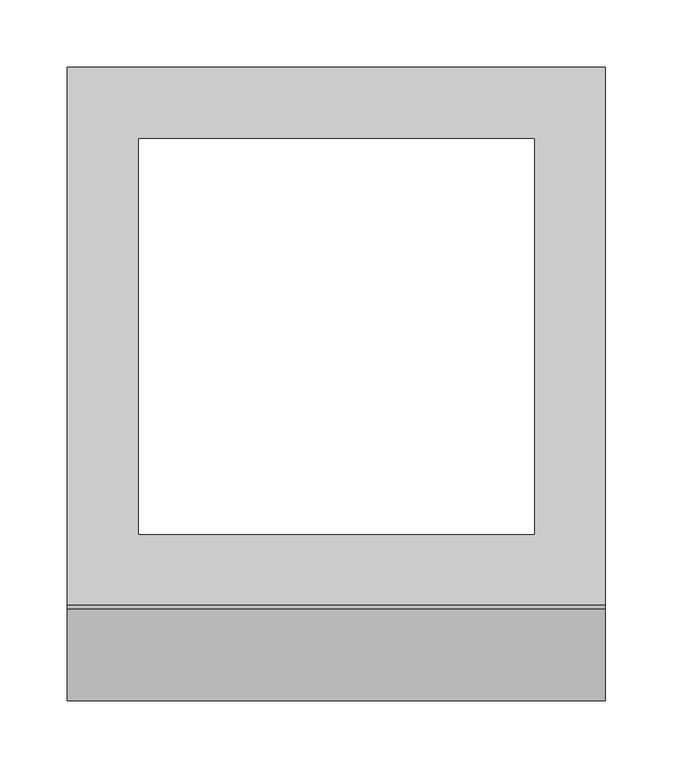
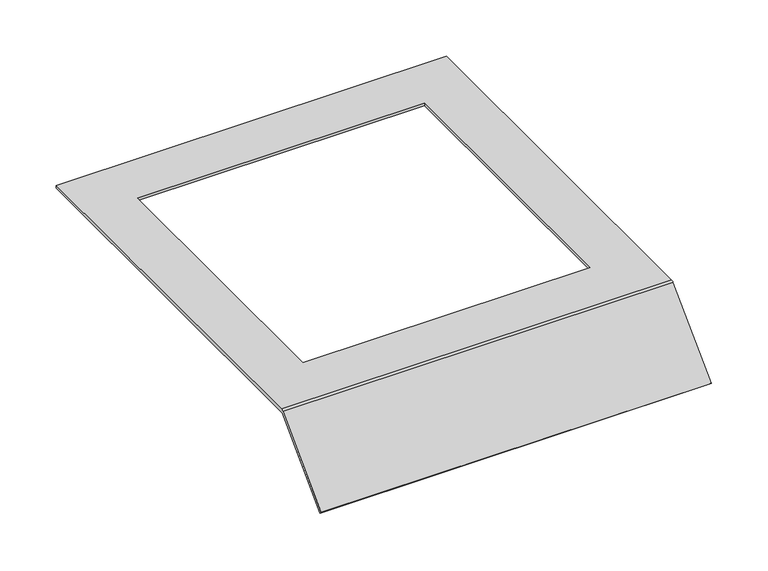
"""IFC4 building model written with IfcOpenShell, lengths in millimetres: proxy geometry, Electrical_Installation_Hager_Covers-With-Installation-Opening-Q08 : Electrical_Installation_Hager_Covers-With-Installation-Opening-Q08."""

from ifc_helpers import new_model, si_unit, frame, origin, place, context, project, spatial, polyline, circle_curve, source, transform, mapped, element, save
from ifc_brep_helpers import plane_surface, cylinder_surface, revolved_surface, advanced_brep


def electrical_fixtures_5756d35e(model_context):
    return source(origin(), model_context, "Body", "AdvancedBrep", [
        advanced_brep(
        [(0.0, 200.0, 40.5), (0.0, 200.0, 37.5), (0.0, -199.8229541, 37.5), (0.0, -200.8322972, 37.0819164), (0.0, -268.712807, -30.7985934), (0.0, -270.8341273, -28.6772731), (0.0, -202.8206472, 39.336207), (0.0, -200.0110025, 40.5), (400.0, 200.0, 40.5), (400.0, -200.0110025, 40.5), (400.0, -202.8206472, 39.336207), (400.0, -270.8341273, -28.6772731), (400.0, -268.712807, -30.7985934), (400.0, -200.8322972, 37.0819164), (400.0, -199.8229541, 37.5), (400.0, 200.0, 37.5), (347.0, 147.0, 37.5), (53.0, 147.0, 37.5), (53.0, -147.0, 37.5), (347.0, -147.0, 37.5), (53.0, 147.0, 40.5), (347.0, 147.0, 40.5), (347.0, -147.0, 40.5), (53.0, -147.0, 40.5)],
        [
            (0, 1),
            (1, 2),
            (2, 3, circle_curve(frame((0.0, -199.8229541, 36.0725733), z_axis=(1.0, 0.0, 0.0), x_axis=(0.0, 1.0, 0.0)), 1.4274267)),
            (3, 4),
            (4, 5),
            (5, 6),
            (6, 7, circle_curve(frame((0.0, -200.0110025, 36.5265623), z_axis=(-1.0, 0.0, 0.0), x_axis=(0.0, 1.0, 0.0)), 3.9734377)),
            (7, 0),
            (8, 9),
            (9, 10, circle_curve(frame((400.0, -200.0110025, 36.5265623), z_axis=(1.0, 0.0, 0.0), x_axis=(0.0, 1.0, 0.0)), 3.9734377)),
            (10, 11),
            (11, 12),
            (12, 13),
            (13, 14, circle_curve(frame((400.0, -199.8229541, 36.0725733), z_axis=(-1.0, 0.0, 0.0), x_axis=(0.0, 1.0, 0.0)), 1.4274267)),
            (14, 15),
            (15, 8),
            (0, 8),
            (15, 1),
            (14, 2),
            (16, 17),
            (17, 18),
            (18, 19),
            (19, 16),
            (13, 3),
            (12, 4),
            (11, 5),
            (10, 6),
            (9, 7),
            (20, 21),
            (21, 22),
            (22, 23),
            (23, 20),
            (16, 21),
            (20, 17),
            (23, 18),
            (22, 19),
        ],
        [
            plane_surface(frame((0.0, 0.3269864, 15.0), z_axis=(-1.0, 0.0, 0.0), x_axis=(0.0, 0.0, 1.0))),
            plane_surface(frame((400.0, 0.3269864, 15.0), z_axis=(1.0, 0.0, 0.0), x_axis=(0.0, 0.0, 1.0))),
            plane_surface(frame((0.0, 200.0, 40.5), z_axis=(0.0, 1.0, 0.0), x_axis=(1.0, 0.0, 0.0))),
            plane_surface(frame((0.0, 200.0, 37.5), z_axis=(0.0, 0.0, -1.0), x_axis=(1.0, 0.0, 0.0))),
            revolved_surface(polyline([(400.0, -198.3955274, 36.0725733), (0.0, -198.3955274, 36.0725733)]), (0.0, -199.8229541, 36.0725733), (1.0, 0.0, 0.0)),
            plane_surface(frame((0.0, -200.8322972, 37.0819164), z_axis=(0.0, 0.7071067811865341, -0.707106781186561), x_axis=(1.0, 0.0, 0.0))),
            plane_surface(frame((0.0, -268.712807, -30.7985934), z_axis=(0.0, -0.7071067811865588, -0.7071067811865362), x_axis=(1.0, 0.0, 0.0))),
            plane_surface(frame((0.0, -270.8341273, -28.6772731), z_axis=(0.0, -0.707106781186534, 0.7071067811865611), x_axis=(1.0, 0.0, 0.0))),
            cylinder_surface(frame((0.0, -200.0110025, 36.5265623), z_axis=(-1.0, 0.0, 0.0), x_axis=(0.0, 1.0, 0.0)), 3.9734377),
            plane_surface(frame((0.0, -200.0110025, 40.5), z_axis=(0.0, 0.0, 1.0), x_axis=(1.0, 0.0, 0.0))),
            plane_surface(frame((347.0, 147.0, 250.0), z_axis=(0.0, -1.0, 0.0), x_axis=(0.0, 0.0, -1.0))),
            plane_surface(frame((53.0, 147.0, 250.0), z_axis=(1.0, 0.0, 0.0), x_axis=(0.0, 0.0, -1.0))),
            plane_surface(frame((53.0, -147.0, 250.0), z_axis=(0.0, 1.0, 0.0), x_axis=(0.0, 0.0, -1.0))),
            plane_surface(frame((347.0, -147.0, 250.0), z_axis=(-1.0, 0.0, 0.0), x_axis=(0.0, 0.0, -1.0))),
        ],
        [
            (0, [[1, 2, 3, 4, 5, 6, 7, 8]]),
            (1, [[9, 10, 11, 12, 13, 14, 15, 16]]),
            (2, [[-1, 17, -16, 18]]),
            (3, [[-2, -18, -15, 19], [20, 21, 22, 23]]),
            (4, [[-3, -19, -14, 24]]),
            (5, [[-4, -24, -13, 25]]),
            (6, [[-5, -25, -12, 26]]),
            (7, [[-6, -26, -11, 27]]),
            (8, [[-7, -27, -10, 28]]),
            (9, [[-8, -28, -9, -17], [29, 30, 31, 32]]),
            (10, [[33, -29, 34, -20]]),
            (11, [[-34, -32, 35, -21]]),
            (12, [[-35, -31, 36, -22]]),
            (13, [[-33, -23, -36, -30]]),
        ],
    ),
    ])


if __name__ == "__main__":
    model = new_model("IFC4")
    model_context = context("Model", 3, world=origin())
    ifc_project = project(units=[si_unit("LENGTHUNIT", "METRE", prefix="MILLI")], contexts=[model_context])
    site = spatial("IfcSite", under=ifc_project)
    building = spatial("IfcBuilding", under=site)
    placement = place(None, origin())
    electrical_fixtures_shape = electrical_fixtures_5756d35e(model_context)
    element("IfcBuildingElementProxy", 1, Name="Electrical_Installation_Hager_Covers-With-Installation-Opening-Q08 : Electrical_Installation_Hager_Covers-With-Installation-Opening-Q08", ObjectType="Electrical_Installation_Hager_Covers-With-Installation-Opening-Q08 : Electrical_Installation_Hager_Covers-With-Installation-Opening-Q08", at=placement, inside=building, context=model_context, shape_type="MappedRepresentation", body=[
        mapped(electrical_fixtures_shape, transform((0.0, 0.0, 0.0), x_axis=(1.0, 0.0, 0.0), y_axis=(0.0, 1.0, 0.0), z_axis=(0.0, 0.0, 1.0))),
    ])
    save(model, "model.ifc")
